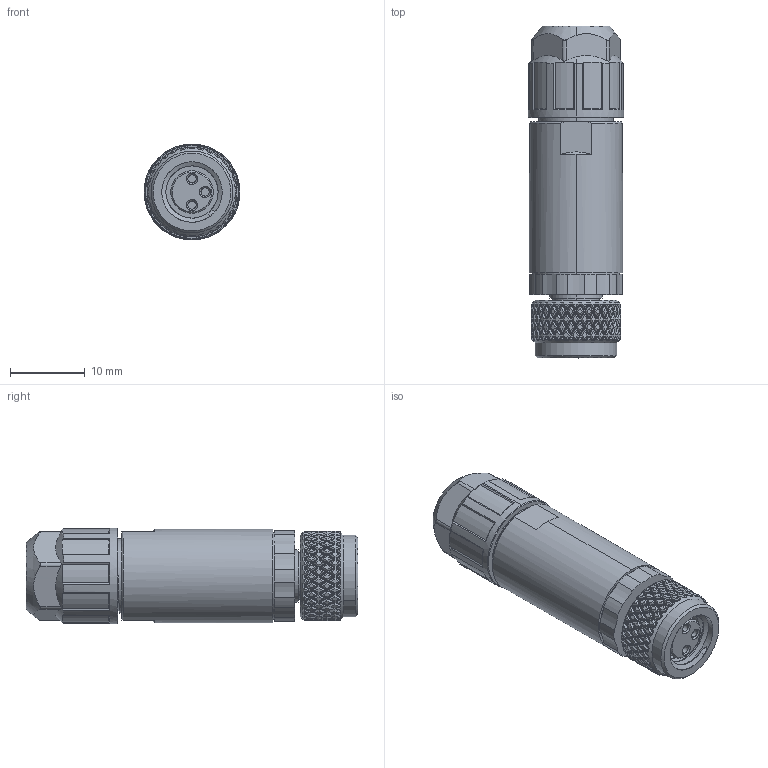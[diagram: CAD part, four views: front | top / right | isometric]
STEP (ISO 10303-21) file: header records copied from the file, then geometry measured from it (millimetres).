
FILE_DESCRIPTION (( 'STEP AP203' ), '1' );
FILE_NAME ('63F301.STEP', '2023-06-24T02:58:40', ( '' ), ( '' ), 'SwSTEP 2.0', 'SolidWorks 2016', '' );
FILE_SCHEMA (( 'CONFIG_CONTROL_DESIGN' ));
Length unit declared in the file: millimetre
Products named in the file (1): 63F301
Bounding box: 12.84 x 44.47 x 12.84 mm (x, y, z)
Volume: 3793.8 mm3; surface area: 3865.6 mm2
Topology: 1 solids, 5 shells, 1803 faces, 3981 edges, 2203 vertices
Faces by surface type: bspline 1355, cylinder 267, plane 120, cone 61
Entity records: 99829 total; most frequent: CARTESIAN_POINT 71671, ORIENTED_EDGE 7962, EDGE_CURVE 3981, B_SPLINE_CURVE_WITH_KNOTS 3393, VERTEX_POINT 2203, EDGE_LOOP 1838, ADVANCED_FACE 1803, FACE_OUTER_BOUND 1803
